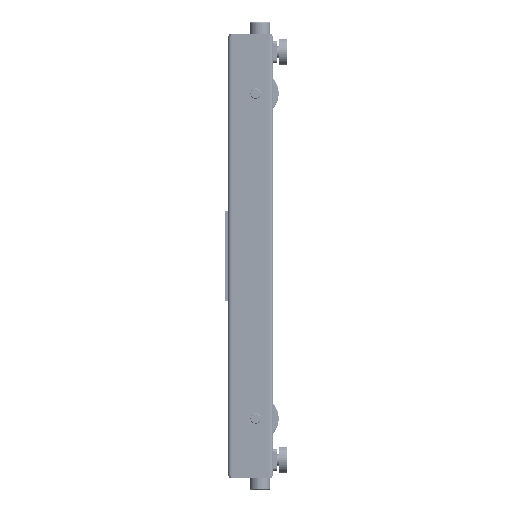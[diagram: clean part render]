
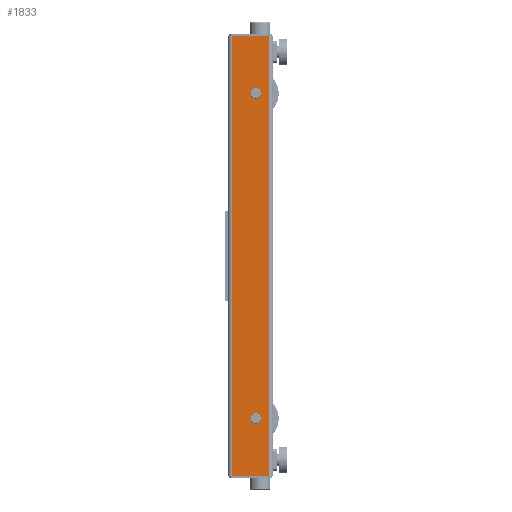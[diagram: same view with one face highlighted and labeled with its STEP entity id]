
A CAD part, left-side view. The second image highlights one B-rep face of the part: STEP entity #1833.
In plain terms, the highlighted planar face has unit normal (-1, 0, 0).
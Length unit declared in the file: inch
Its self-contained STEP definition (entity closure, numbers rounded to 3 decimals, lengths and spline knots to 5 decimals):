
#394 = VECTOR ( 'NONE', #49995, 39.37008 ) ;
#732 = ORIENTED_EDGE ( 'NONE', *, *, #24222, .T. ) ;
#1071 = LINE ( 'NONE', #16296, #58738 ) ;
#1356 = DIRECTION ( 'NONE',  ( 0., 0., -1. ) ) ;
#1833 = ADVANCED_FACE ( 'NONE', ( #19579, #55518, #10635 ), #10314, .F. ) ;
#4567 = AXIS2_PLACEMENT_3D ( 'NONE', #65086, #50225, #5665 ) ;
#5665 = DIRECTION ( 'NONE',  ( 0., 1., 0. ) ) ;
#7237 = CARTESIAN_POINT ( 'NONE',  ( 0., 0.5, 0. ) ) ;
#7649 = EDGE_CURVE ( 'NONE', #17263, #35568, #48400, .T. ) ;
#9081 = CARTESIAN_POINT ( 'NONE',  ( 0., 1.636, 50.563 ) ) ;
#10314 = PLANE ( 'NONE',  #50961 ) ;
#10628 = CARTESIAN_POINT ( 'NONE',  ( 0., 0.5, 58.125 ) ) ;
#10635 = FACE_OUTER_BOUND ( 'NONE', #30879, .T. ) ;
#10926 = CIRCLE ( 'NONE', #4567, 0.69 ) ;
#13254 = LINE ( 'NONE', #29102, #45555 ) ;
#14463 = ORIENTED_EDGE ( 'NONE', *, *, #51322, .T. ) ;
#15335 = LINE ( 'NONE', #30848, #394 ) ;
#16108 = VERTEX_POINT ( 'NONE', #7237 ) ;
#16296 = CARTESIAN_POINT ( 'NONE',  ( 0., 0.5, 0. ) ) ;
#16695 = ORIENTED_EDGE ( 'NONE', *, *, #44078, .T. ) ;
#17263 = VERTEX_POINT ( 'NONE', #37706 ) ;
#17886 = DIRECTION ( 'NONE',  ( 0., 0., -1. ) ) ;
#19579 = FACE_BOUND ( 'NONE', #39886, .T. ) ;
#21841 = DIRECTION ( 'NONE',  ( 1., 0., 0. ) ) ;
#22759 = ORIENTED_EDGE ( 'NONE', *, *, #51176, .F. ) ;
#23582 = ORIENTED_EDGE ( 'NONE', *, *, #62050, .F. ) ;
#23648 = EDGE_CURVE ( 'NONE', #23826, #64219, #62523, .T. ) ;
#23826 = VERTEX_POINT ( 'NONE', #9081 ) ;
#24222 = EDGE_CURVE ( 'NONE', #64219, #23826, #10926, .T. ) ;
#24621 = CARTESIAN_POINT ( 'NONE',  ( 0., 2.326, 7.563 ) ) ;
#26304 = DIRECTION ( 'NONE',  ( 1., 0., 0. ) ) ;
#29102 = CARTESIAN_POINT ( 'NONE',  ( 0., 5.5, 58.125 ) ) ;
#30201 = DIRECTION ( 'NONE',  ( 1., 0., 0. ) ) ;
#30526 = DIRECTION ( 'NONE',  ( 0., 0., -1. ) ) ;
#30848 = CARTESIAN_POINT ( 'NONE',  ( 0., 0.5, 58.125 ) ) ;
#30879 = EDGE_LOOP ( 'NONE', ( #16695, #23582, #22759, #64156 ) ) ;
#32122 = VERTEX_POINT ( 'NONE', #44534 ) ;
#32400 = DIRECTION ( 'NONE',  ( 1., 0., 0. ) ) ;
#34795 = CARTESIAN_POINT ( 'NONE',  ( 0., 5.5, 58.125 ) ) ;
#35568 = VERTEX_POINT ( 'NONE', #56964 ) ;
#36691 = CARTESIAN_POINT ( 'NONE',  ( 0., 0.5, 58.125 ) ) ;
#37030 = DIRECTION ( 'NONE',  ( 0., 1., 0. ) ) ;
#37361 = CARTESIAN_POINT ( 'NONE',  ( 0., 2.326, 7.563 ) ) ;
#37706 = CARTESIAN_POINT ( 'NONE',  ( 0., 2.326, 6.873 ) ) ;
#39886 = EDGE_LOOP ( 'NONE', ( #64399, #14463 ) ) ;
#44078 = EDGE_CURVE ( 'NONE', #32122, #16108, #1071, .T. ) ;
#44534 = CARTESIAN_POINT ( 'NONE',  ( 0., 5.5, 0. ) ) ;
#45555 = VECTOR ( 'NONE', #17886, 39.37008 ) ;
#45870 = VERTEX_POINT ( 'NONE', #60112 ) ;
#47716 = VECTOR ( 'NONE', #50894, 39.37008 ) ;
#48400 = CIRCLE ( 'NONE', #54722, 0.69 ) ;
#48720 = VERTEX_POINT ( 'NONE', #34795 ) ;
#49995 = DIRECTION ( 'NONE',  ( 0., 0., -1. ) ) ;
#50225 = DIRECTION ( 'NONE',  ( 1., 0., 0. ) ) ;
#50894 = DIRECTION ( 'NONE',  ( 0., -1., 0. ) ) ;
#50961 = AXIS2_PLACEMENT_3D ( 'NONE', #36691, #21841, #37030 ) ;
#51176 = EDGE_CURVE ( 'NONE', #48720, #45870, #60777, .T. ) ;
#51322 = EDGE_CURVE ( 'NONE', #35568, #17263, #51916, .T. ) ;
#51341 = ORIENTED_EDGE ( 'NONE', *, *, #23648, .T. ) ;
#51364 = CARTESIAN_POINT ( 'NONE',  ( 0., 2.326, 50.563 ) ) ;
#51916 = CIRCLE ( 'NONE', #60335, 0.69 ) ;
#54713 = EDGE_LOOP ( 'NONE', ( #732, #51341 ) ) ;
#54722 = AXIS2_PLACEMENT_3D ( 'NONE', #24621, #30201, #30526 ) ;
#55518 = FACE_BOUND ( 'NONE', #54713, .T. ) ;
#55676 = CARTESIAN_POINT ( 'NONE',  ( 0., 3.016, 50.563 ) ) ;
#56220 = DIRECTION ( 'NONE',  ( 0., -1., 0. ) ) ;
#56964 = CARTESIAN_POINT ( 'NONE',  ( 0., 2.326, 8.253 ) ) ;
#58259 = AXIS2_PLACEMENT_3D ( 'NONE', #51364, #26304, #65245 ) ;
#58738 = VECTOR ( 'NONE', #56220, 39.37008 ) ;
#59811 = EDGE_CURVE ( 'NONE', #48720, #32122, #13254, .T. ) ;
#60112 = CARTESIAN_POINT ( 'NONE',  ( 0., 0.5, 58.125 ) ) ;
#60335 = AXIS2_PLACEMENT_3D ( 'NONE', #37361, #32400, #1356 ) ;
#60777 = LINE ( 'NONE', #10628, #47716 ) ;
#62050 = EDGE_CURVE ( 'NONE', #45870, #16108, #15335, .T. ) ;
#62523 = CIRCLE ( 'NONE', #58259, 0.69 ) ;
#64156 = ORIENTED_EDGE ( 'NONE', *, *, #59811, .T. ) ;
#64219 = VERTEX_POINT ( 'NONE', #55676 ) ;
#64399 = ORIENTED_EDGE ( 'NONE', *, *, #7649, .T. ) ;
#65086 = CARTESIAN_POINT ( 'NONE',  ( 0., 2.326, 50.563 ) ) ;
#65245 = DIRECTION ( 'NONE',  ( 0., 1., 0. ) ) ;
